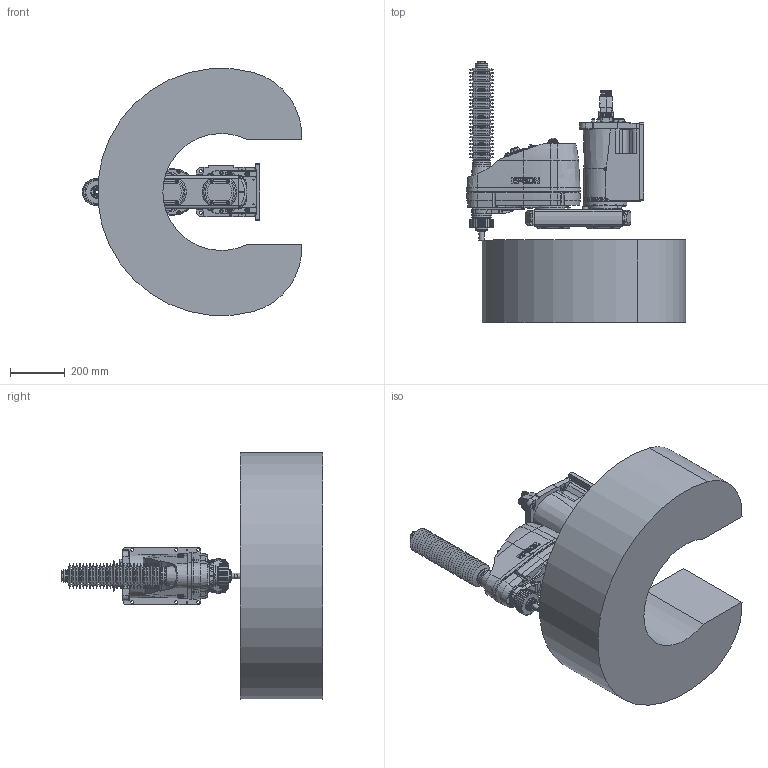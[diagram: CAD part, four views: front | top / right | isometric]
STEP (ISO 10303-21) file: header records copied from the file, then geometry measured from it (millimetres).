
FILE_DESCRIPTION( ( 'STEP AP214' ), '1' );
FILE_NAME( 'C:/Users/9607552/Desktop/GX8-B453CW_straight.stp', '2023-07-07T02:12:16', ( '' ), ( '' ), ' ', 'PARTsolutions', ' ' );
FILE_SCHEMA( ( 'AUTOMOTIVE_DESIGN { 1 0 10303 214 1 1 1 1 }' ) );
Length unit declared in the file: millimetre
Products named in the file (11): GX8-B453CWS-W; _B452CW_BASE; _B452CR; _B452CR_1; _B452CR_2; _B452C_J2; _B453CZA; _2-B-long; _2-B-short; _Straight-B; _GX8-12-1-B_WS
Assembly tree (12 placements, depth 2):
  GX8-B453CWS-W
    _B452CW_BASE
    _B452CR
    _B452CR_1  x2
    _B452CR_2  x2
    _B452C_J2
    _B453CZA
    _2-B-long
    _2-B-short
    _Straight-B
    _GX8-12-1-B_WS
Bounding box: 796.98 x 950.5 x 896.58 mm (x, y, z)
Volume: 134914781.7 mm3; surface area: 3315908.6 mm2
Topology: 12 solids, 16 shells, 3441 faces, 8290 edges, 5340 vertices
Faces by surface type: plane 1639, cylinder 1122, cone 476, torus 162, bspline 37, sphere 5
Full cylindrical faces by diameter (mm): 1 x48, 1.18 x55, 2.261 x4, 2.459 x12, 3 x32, 3.242 x18, 3.3 x4, 3.9 x4, 4.2 x8, 4.5 x12, 4.8 x5, 5.34 x4, 5.5 x17, 6 x6, 6.2 x4, 6.647 x4, 6.8 x2, 7 x42, 8 x5, 8.5 x4, 9 x24, 10 x24, 11 x4, 11.2 x5, 11.5 x1, 12 x5, 12.2 x1, 12.25 x1, 13 x7, 13.2 x12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
Entity records: 121797 total; most frequent: CARTESIAN_POINT 22509, DIRECTION 15224, ORIENTED_EDGE 13628, EDGE_CURVE 6814, AXIS2_PLACEMENT_3D 5970, VERTEX_POINT 4950, EDGE_LOOP 4704, FACE_OUTER_BOUND 3891
